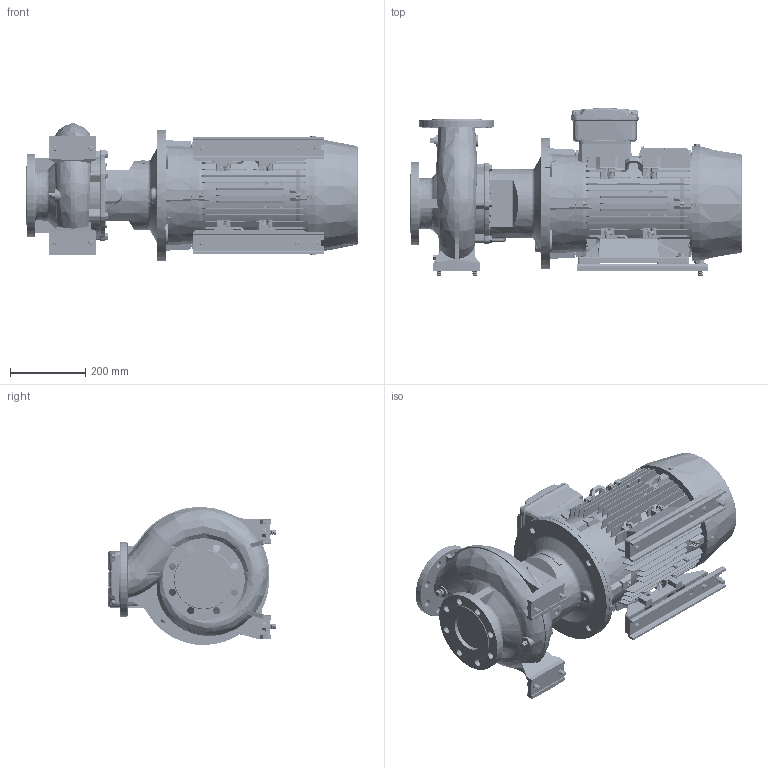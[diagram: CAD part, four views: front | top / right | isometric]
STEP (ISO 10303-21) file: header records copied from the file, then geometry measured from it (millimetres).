
FILE_DESCRIPTION (( 'STEP AP214' ), '1' );
FILE_NAME ('GSD2 80-160_11.0, 15.0 & 18.5_(160ML)_W21.STEP', '2026-07-08T06:25:44', ( '' ), ( '' ), 'SwSTEP 2.0', 'SolidWorks 2024', '' );
FILE_SCHEMA (( 'AUTOMOTIVE_DESIGN' ));
Length unit declared in the file: millimetre
Products named in the file (9): 80-160-160M_L_ﾃﾞﾌｫﾙﾄ; GSD2  80-160_11.0, 15.0 & 18.5_(160ML)_W21; 210_254 x 20 - 271472113; Parametric Flat Washer_M12; Parametric bolt_SFT-A301B; Parametric bolt_SFT-A299B; Parametric bolt and washer_SFT-A299B; Parametric bolt and washer_SFT-A301B; 160M_L_ALIE3_W21T_B35
Assembly tree (18 placements, depth 3):
  GSD2  80-160_11.0, 15.0 & 18.5_(160ML)_W21
    80-160-160M_L_ﾃﾞﾌｫﾙﾄ
    210_254 x 20 - 271472113  x2
    Parametric bolt and washer_SFT-A299B  x4
      Parametric bolt_SFT-A299B
      Parametric Flat Washer_M12
    Parametric bolt and washer_SFT-A301B  x6
      Parametric bolt_SFT-A301B
      Parametric Flat Washer_M12
    160M_L_ALIE3_W21T_B35
Bounding box: 885.3 x 447.03 x 368.33 mm (x, y, z)
Volume: 47595229.8 mm3; surface area: 2960262.7 mm2
Topology: 53 solids, 59 shells, 6151 faces, 15914 edges, 10301 vertices
Faces by surface type: plane 3695, cylinder 1215, cone 545, bspline 443, torus 237, sphere 16
Entity records: 219231 total; most frequent: CARTESIAN_POINT 87204, ORIENTED_EDGE 28986, DIRECTION 24442, EDGE_CURVE 14493, VERTEX_POINT 9390, VECTOR 9302, LINE 9302, AXIS2_PLACEMENT_3D 7570
